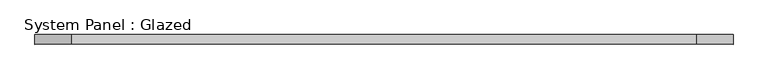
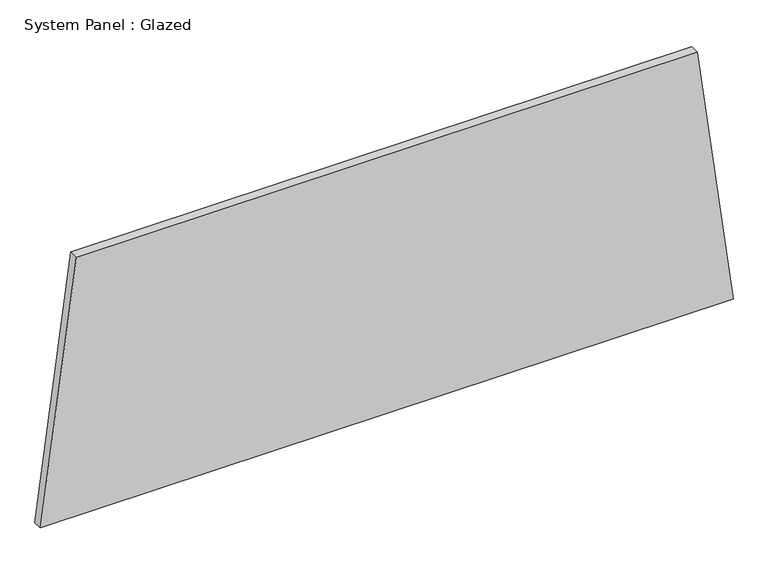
"""IFC4 building model written with IfcOpenShell, lengths in millimetres: plate geometry, System Panel : Glazed."""

from ifc_helpers import new_model, si_unit, frame, origin, place, context, project, spatial, polyline, outline, extrude, source, transform, mapped, element, save


def system_panel_glazed_73e16893(model_context):
    return source(origin(), model_context, "Body", "SweptSolid", [
        extrude(outline(polyline([(0.0, -924.5323077), (0.0, 924.5323077), (730.1376435, 828.8318917), (730.1376435, -828.8318917), (0.0, -924.5323077)])), frame((0.0, -44.45, 0.0), z_axis=(0.0, 1.0, 0.0), x_axis=(0.0, 0.0, 1.0)), (0.0, 0.0, 1.0), 25.4),
    ])


if __name__ == "__main__":
    model = new_model("IFC4")
    model_context = context("Model", 3, world=origin())
    ifc_project = project(units=[si_unit("LENGTHUNIT", "METRE", prefix="MILLI")], contexts=[model_context])
    site = spatial("IfcSite", under=ifc_project)
    building = spatial("IfcBuilding", under=site)
    placement = place(None, origin())
    system_panel_glazed_shape = system_panel_glazed_73e16893(model_context)
    element("IfcPlate", 1, ObjectType="System Panel : Glazed", at=placement, inside=building, context=model_context, shape_type="MappedRepresentation", body=[
        mapped(system_panel_glazed_shape, transform((0.0, 0.0, 0.0), x_axis=(1.0, 0.0, 0.0), y_axis=(0.0, 1.0, 0.0), z_axis=(0.0, 0.0, 1.0))),
    ])
    save(model, "model.ifc")
